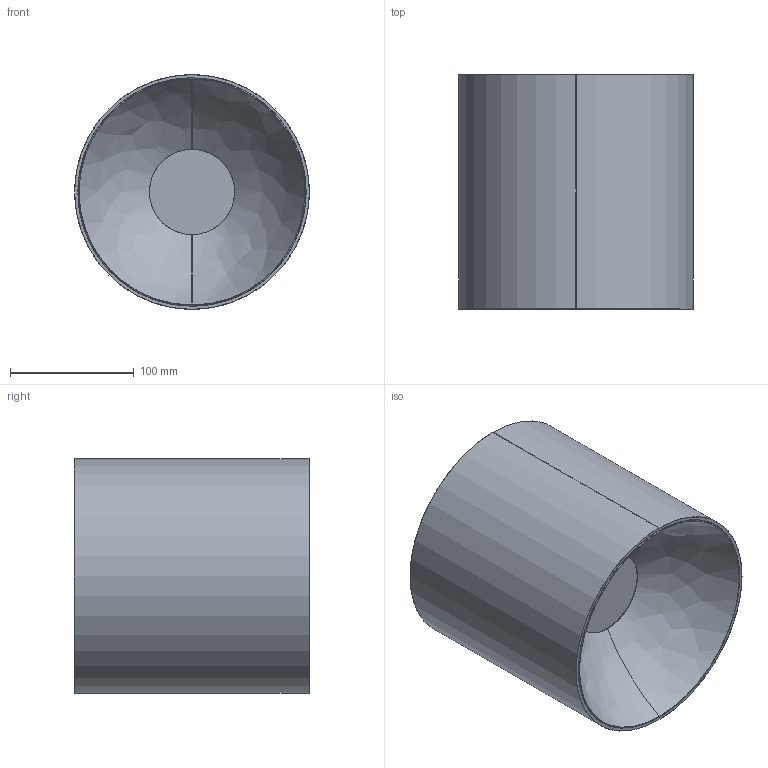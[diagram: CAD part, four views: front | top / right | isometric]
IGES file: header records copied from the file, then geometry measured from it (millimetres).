
Start section: SolidWorks IGES file using analytic representation for surfaces
Global section: file name: F:\GABRYSIA\MODELE 3D\OPRAWY\CL-IOS-LED-8723-8724-8725-8726-WWW\CL-IOS-LED-8723-8724-8725-8726.IGS; native system: SolidWorks 2017; preprocessor: SolidWorks 2017; author: Togambi; date: 200917.141258; units: millimetre
Bounding box: 190 x 190.47 x 190 mm (x, y, z)
Surface area: 363302.4 mm2 (no closed solid volume)
Topology: 0 solids, 0 shells, 227 faces, 3371 edges, 3367 vertices
Faces by surface type: bspline 136, revolution 91
